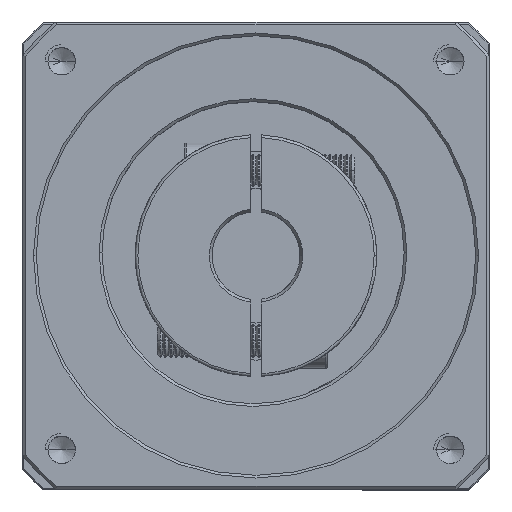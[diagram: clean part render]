
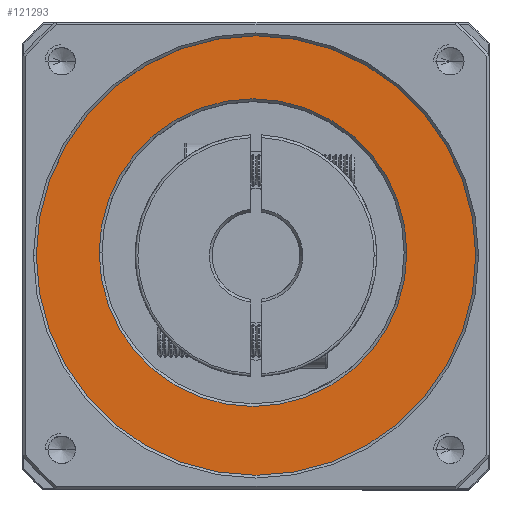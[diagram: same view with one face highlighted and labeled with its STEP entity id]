
A CAD part, top view. The second image highlights one B-rep face of the part: STEP entity #121293.
In plain terms, the highlighted planar face has unit normal (0, 0, 1).
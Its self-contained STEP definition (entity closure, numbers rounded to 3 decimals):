
#2541 = CARTESIAN_POINT ( 'NONE',  ( -41.825, 29.885, -1.826 ) ) ;
#2972 = DIRECTION ( 'NONE',  ( 0., 0., 1. ) ) ;
#5327 = AXIS2_PLACEMENT_3D ( 'NONE', #99344, #128376, #28975 ) ;
#5693 = DIRECTION ( 'NONE',  ( 0., 0., -1. ) ) ;
#8532 = VERTEX_POINT ( 'NONE', #64547 ) ;
#9068 = VERTEX_POINT ( 'NONE', #52163 ) ;
#9930 = FACE_BOUND ( 'NONE', #60790, .T. ) ;
#11907 = EDGE_CURVE ( 'NONE', #8532, #85685, #72572, .T. ) ;
#14010 = EDGE_CURVE ( 'NONE', #23602, #9068, #46138, .T. ) ;
#14681 = ORIENTED_EDGE ( 'NONE', *, *, #14010, .T. ) ;
#16193 = AXIS2_PLACEMENT_3D ( 'NONE', #86219, #64355, #75279 ) ;
#23602 = VERTEX_POINT ( 'NONE', #96095 ) ;
#28840 = ORIENTED_EDGE ( 'NONE', *, *, #78926, .T. ) ;
#28975 = DIRECTION ( 'NONE',  ( 1., 0., 0. ) ) ;
#33894 = DIRECTION ( 'NONE',  ( 1., 0., 0. ) ) ;
#46138 = CIRCLE ( 'NONE', #99343, 28. ) ;
#52163 = CARTESIAN_POINT ( 'NONE',  ( -70.367, 30.419, -1.826 ) ) ;
#54993 = DIRECTION ( 'NONE',  ( 1., 0., 0. ) ) ;
#55244 = CARTESIAN_POINT ( 'NONE',  ( -81.825, 29.885, -1.826 ) ) ;
#55524 = ORIENTED_EDGE ( 'NONE', *, *, #114790, .T. ) ;
#60790 = EDGE_LOOP ( 'NONE', ( #14681, #55524 ) ) ;
#63119 = DIRECTION ( 'NONE',  ( 1., 0., 0. ) ) ;
#64355 = DIRECTION ( 'NONE',  ( 0., 0., 1. ) ) ;
#64547 = CARTESIAN_POINT ( 'NONE',  ( -1.825, 29.885, -1.826 ) ) ;
#72572 = CIRCLE ( 'NONE', #16193, 40. ) ;
#75279 = DIRECTION ( 'NONE',  ( 1., 0., 0. ) ) ;
#78926 = EDGE_CURVE ( 'NONE', #85685, #8532, #102222, .T. ) ;
#83767 = DIRECTION ( 'NONE',  ( 0., 0., -1. ) ) ;
#85685 = VERTEX_POINT ( 'NONE', #55244 ) ;
#86219 = CARTESIAN_POINT ( 'NONE',  ( -41.825, 29.885, -1.826 ) ) ;
#96095 = CARTESIAN_POINT ( 'NONE',  ( -14.367, 30.419, -1.826 ) ) ;
#99343 = AXIS2_PLACEMENT_3D ( 'NONE', #115038, #5693, #54993 ) ;
#99344 = CARTESIAN_POINT ( 'NONE',  ( -41.825, 29.885, -1.826 ) ) ;
#102222 = CIRCLE ( 'NONE', #105838, 40. ) ;
#105838 = AXIS2_PLACEMENT_3D ( 'NONE', #2541, #2972, #63119 ) ;
#109496 = PLANE ( 'NONE',  #5327 ) ;
#111734 = CIRCLE ( 'NONE', #118330, 28. ) ;
#114790 = EDGE_CURVE ( 'NONE', #9068, #23602, #111734, .T. ) ;
#115038 = CARTESIAN_POINT ( 'NONE',  ( -42.367, 30.419, -1.826 ) ) ;
#118262 = ORIENTED_EDGE ( 'NONE', *, *, #11907, .T. ) ;
#118330 = AXIS2_PLACEMENT_3D ( 'NONE', #123656, #83767, #33894 ) ;
#121040 = FACE_OUTER_BOUND ( 'NONE', #125196, .T. ) ;
#121293 = ADVANCED_FACE ( 'NONE', ( #121040, #9930 ), #109496, .T. ) ;
#123656 = CARTESIAN_POINT ( 'NONE',  ( -42.367, 30.419, -1.826 ) ) ;
#125196 = EDGE_LOOP ( 'NONE', ( #118262, #28840 ) ) ;
#128376 = DIRECTION ( 'NONE',  ( 0., 0., 1. ) ) ;
